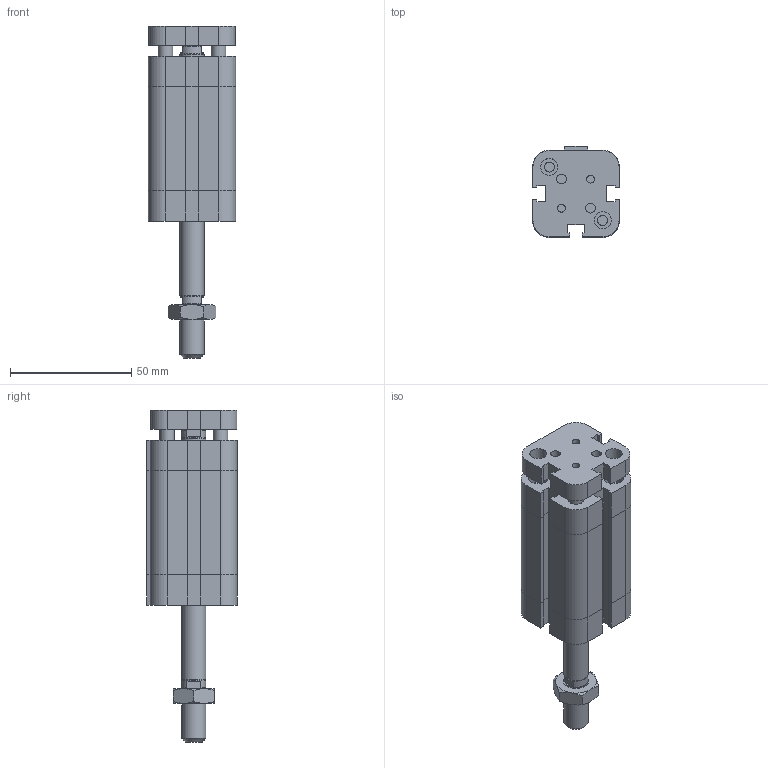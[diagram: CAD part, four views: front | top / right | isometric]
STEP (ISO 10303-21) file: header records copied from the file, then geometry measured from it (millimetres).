
FILE_DESCRIPTION((''),'2;1');
FILE_NAME('I:\Area Tecnica\Disegni\VARIE-3D\Componenti\EUROPE\15##_###_####_09_#\1581_20_0030_09_1.iam.stp','2009-04-20T15:43:13',(''),(''),'Autodesk Inventor 2009','Autodesk Inventor 2009','');
FILE_SCHEMA(('AUTOMOTIVE_DESIGN { 1 0 10303 214 1 1 1 1 }'));
Length unit declared in the file: millimetre
Products named in the file (4): 1581_20_0030_09_1; 1581_20_0030_08_1_C; 1561_20_0030_09_1_SA; DBFM10
Assembly tree (3 placements, depth 2):
  1581_20_0030_09_1
    1581_20_0030_08_1_C
    1561_20_0030_09_1_SA
    DBFM10
Bounding box: 36 x 37.5 x 137 mm (x, y, z)
Volume: 92580.7 mm3; surface area: 29802.1 mm2
Topology: 3 solids, 3 shells, 236 faces, 550 edges, 339 vertices
Faces by surface type: plane 147, bspline 45, cylinder 23, cone 21
Full cylindrical faces by diameter (mm): 6 x2, 8.8 x1, 9.8 x2, 10 x2
Entity records: 6859 total; most frequent: CARTESIAN_POINT 1610, ORIENTED_EDGE 992, DIRECTION 974, EDGE_CURVE 496, VECTOR 350, LINE 350, VERTEX_POINT 322, AXIS2_PLACEMENT_3D 312
